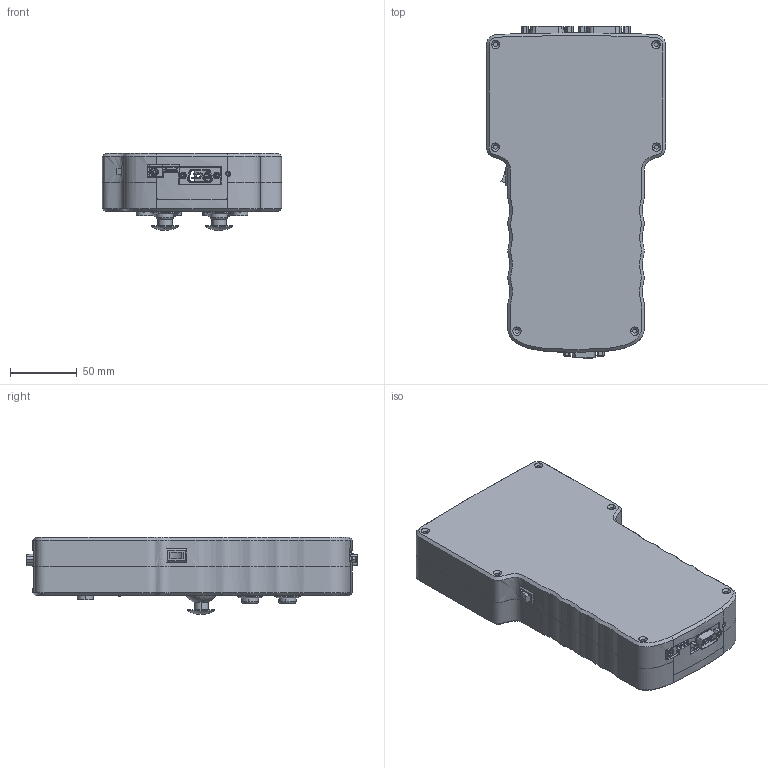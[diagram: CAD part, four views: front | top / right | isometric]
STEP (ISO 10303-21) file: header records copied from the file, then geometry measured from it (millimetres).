
FILE_DESCRIPTION (( 'STEP AP214' ), '1' );
FILE_NAME ('E53.D2E-K三维.STEP', '2025-04-10T05:34:06', ( '微软用户' ), ( '微软中国' ), 'SwSTEP 2.0', 'SolidWorks 2016', '' );
FILE_SCHEMA (( 'AUTOMOTIVE_DESIGN' ));
Length unit declared in the file: millimetre
Products named in the file (1): E53.D2E-K三维
Bounding box: 134 x 248.25 x 57.65 mm (x, y, z)
Surface area: 153213.9 mm2 (no closed solid volume)
Topology: 0 solids, 68 shells, 596 faces, 2479 edges, 1904 vertices
Faces by surface type: cylinder 244, plane 177, cone 98, bspline 43, sphere 26, torus 8
Entity records: 50648 total; most frequent: CARTESIAN_POINT 23968, DIRECTION 4220, ORIENTED_EDGE 3576, EDGE_CURVE 2441, VERTEX_POINT 1886, AXIS2_PLACEMENT_3D 1505, LINE 1210, VECTOR 1210
